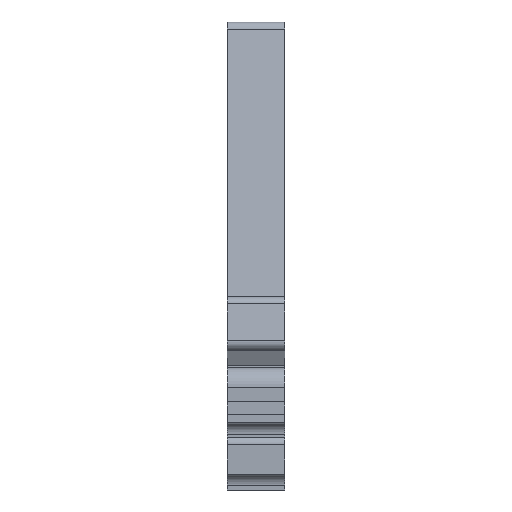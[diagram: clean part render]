
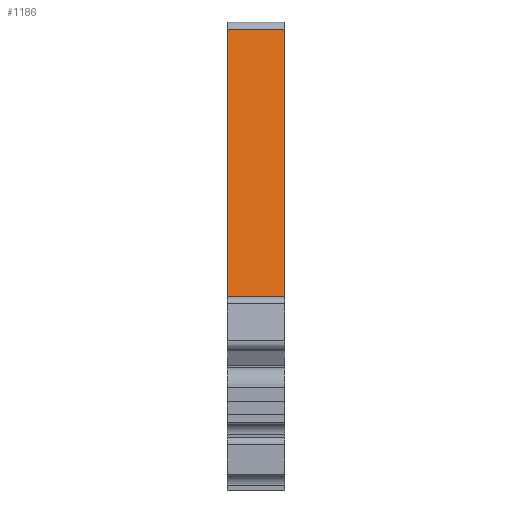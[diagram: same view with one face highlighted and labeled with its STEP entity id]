
A CAD part, left-side view. The second image highlights one B-rep face of the part: STEP entity #1186.
In plain terms, the highlighted planar face has unit normal (-0.985, 0, 0.174).
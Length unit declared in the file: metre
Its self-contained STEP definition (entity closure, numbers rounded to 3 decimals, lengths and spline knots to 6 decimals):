
#46=PLANE('',#1299);
#376=ORIENTED_EDGE('',*,*,#546,.F.);
#377=ORIENTED_EDGE('',*,*,#605,.T.);
#378=ORIENTED_EDGE('',*,*,#459,.T.);
#379=ORIENTED_EDGE('',*,*,#606,.T.);
#459=EDGE_CURVE('',#632,#631,#742,.T.);
#546=EDGE_CURVE('',#715,#716,#803,.T.);
#605=EDGE_CURVE('',#715,#632,#855,.F.);
#606=EDGE_CURVE('',#631,#716,#856,.T.);
#631=VERTEX_POINT('',#1692);
#632=VERTEX_POINT('',#1694);
#715=VERTEX_POINT('',#1864);
#716=VERTEX_POINT('',#1866);
#742=LINE('',#1693,#876);
#803=LINE('',#1865,#937);
#855=LINE('',#1978,#989);
#856=LINE('',#1979,#990);
#876=VECTOR('',#1351,1.);
#937=VECTOR('',#1466,1.);
#989=VECTOR('',#1612,1.);
#990=VECTOR('',#1613,1.);
#1044=EDGE_LOOP('',(#376,#377,#378,#379));
#1106=FACE_BOUND('',#1044,.T.);
#1186=ADVANCED_FACE('',(#1106),#46,.T.);
#1299=AXIS2_PLACEMENT_3D('',#1977,#1610,#1611);
#1351=DIRECTION('',(-0.174,0.,-0.985));
#1466=DIRECTION('',(-0.174,0.,-0.985));
#1610=DIRECTION('',(-0.985,0.,0.174));
#1611=DIRECTION('',(0.174,0.,0.985));
#1612=DIRECTION('',(0.,-1.,0.));
#1613=DIRECTION('',(0.,-1.,0.));
#1692=CARTESIAN_POINT('',(-0.009165,0.01,-0.000537));
#1693=CARTESIAN_POINT('',(-0.004476,0.01,0.026057));
#1694=CARTESIAN_POINT('',(0.000255,0.01,0.052888));
#1864=CARTESIAN_POINT('',(0.000255,0.,0.052888));
#1865=CARTESIAN_POINT('',(-0.004476,0.,0.026057));
#1866=CARTESIAN_POINT('',(-0.009165,0.,-0.000537));
#1977=CARTESIAN_POINT('',(-0.004476,0.01,0.026057));
#1978=CARTESIAN_POINT('',(0.000255,0.01,0.052888));
#1979=CARTESIAN_POINT('',(-0.009165,0.01,-0.000537));
